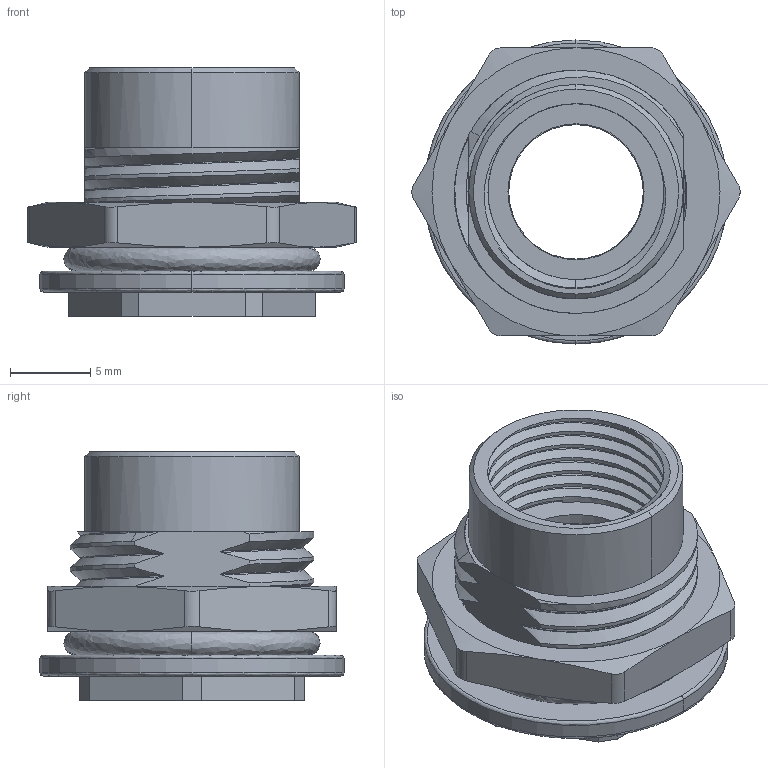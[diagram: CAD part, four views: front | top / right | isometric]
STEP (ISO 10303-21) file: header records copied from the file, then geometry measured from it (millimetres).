
FILE_DESCRIPTION (( 'STEP AP203' ), '1' );
FILE_NAME ('862-F-FM-SHELL.STEP', '2025-09-23T17:17:35', ( '' ), ( '' ), 'SwSTEP 2.0', 'SolidWorks 2020', '' );
FILE_SCHEMA (( 'CONFIG_CONTROL_DESIGN' ));
Length unit declared in the file: millimetre
Products named in the file (1): 862-F-FM-SHELL
Bounding box: 20.5 x 19 x 15.5 mm (x, y, z)
Volume: 1635.4 mm3; surface area: 2528.4 mm2
Topology: 1 solids, 1 shells, 168 faces, 490 edges, 321 vertices
Faces by surface type: cylinder 59, bspline 55, plane 34, cone 20
Entity records: 19512 total; most frequent: CARTESIAN_POINT 15737, ORIENTED_EDGE 980, EDGE_CURVE 490, DIRECTION 450, VERTEX_POINT 321, B_SPLINE_CURVE_WITH_KNOTS 315, EDGE_LOOP 177, ADVANCED_FACE 168
